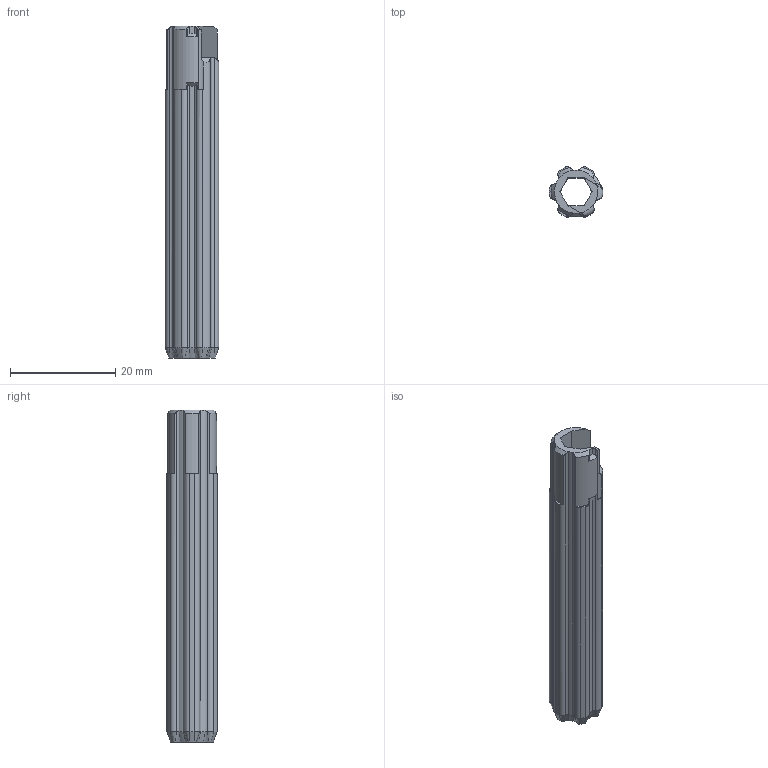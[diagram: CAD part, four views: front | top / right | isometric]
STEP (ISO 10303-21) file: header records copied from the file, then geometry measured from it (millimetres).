
FILE_DESCRIPTION(/* description */ (''),/* implementation_level */ '2;1');
FILE_NAME(/* name */ 'D:/Pew Pews/FGC-9_MkII_Stingray_Edition/Stingray Edition/.step files/1 - Upper/Charging Handle Bushing.step',/* time_stamp */ '2022-05-11T21:17:38-06:00',/* author */ (''),/* organization */ (''),/* preprocessor_version */ 'ST-DEVELOPER v18.1',/* originating_system */ 'Autodesk Translation Framework v10.10.0.1391',/* authorisation */ '');
FILE_SCHEMA (('AUTOMOTIVE_DESIGN { 1 0 10303 214 3 1 1 }'));
Length unit declared in the file: millimetre
Products named in the file (1): Charging Handle Bushing
Bounding box: 10.2 x 9.51 x 62.97 mm (x, y, z)
Volume: 2686 mm3; surface area: 3287.2 mm2
Topology: 1 solids, 1 shells, 121 faces, 312 edges, 192 vertices
Faces by surface type: cylinder 52, cone 46, plane 21, torus 2
Entity records: 3860 total; most frequent: CARTESIAN_POINT 884, DIRECTION 634, ORIENTED_EDGE 624, EDGE_CURVE 312, AXIS2_PLACEMENT_3D 260, VERTEX_POINT 192, CIRCLE 138, EDGE_LOOP 122
